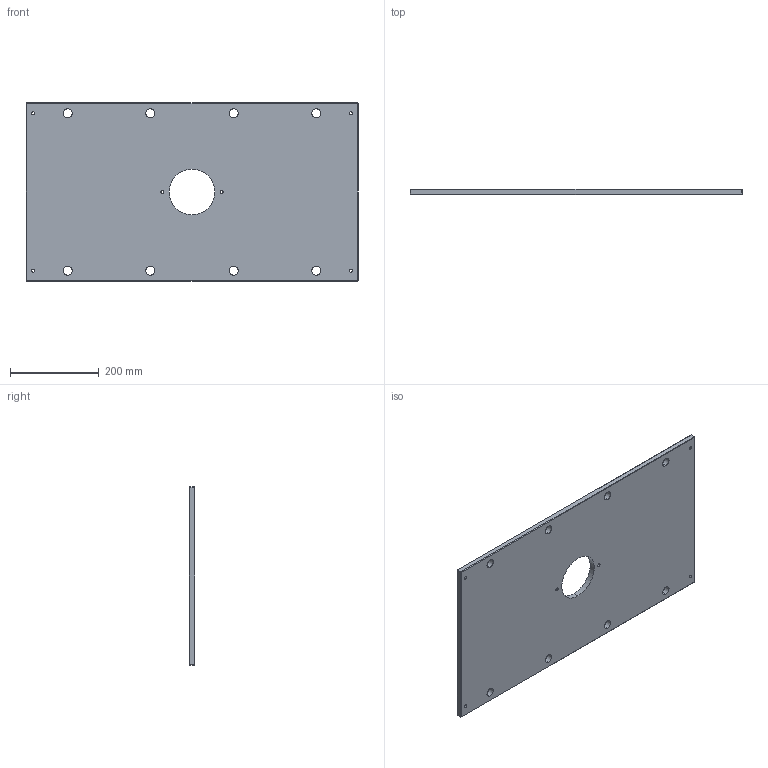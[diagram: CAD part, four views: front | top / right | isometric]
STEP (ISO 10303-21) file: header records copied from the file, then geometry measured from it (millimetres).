
FILE_DESCRIPTION (( 'STEP AP214' ), '1' );
FILE_NAME ('ME-0619-CH-1629.STEP', '2020-02-12T16:20:55', ( '' ), ( '' ), 'SwSTEP 2.0', 'SolidWorks 2018', '' );
FILE_SCHEMA (( 'AUTOMOTIVE_DESIGN' ));
Length unit declared in the file: inch
Products named in the file (1): ME-0619-CH-1629
Bounding box: 746.12 x 12.7 x 400.05 mm (x, y, z)
Volume: 3645413.5 mm3; surface area: 612456.4 mm2
Topology: 1 solids, 1 shells, 68 faces, 162 edges, 96 vertices
Faces by surface type: cylinder 30, plane 26, cone 12
Entity records: 2050 total; most frequent: DIRECTION 372, CARTESIAN_POINT 327, ORIENTED_EDGE 324, EDGE_CURVE 162, AXIS2_PLACEMENT_3D 141, EDGE_LOOP 98, VERTEX_POINT 96, VECTOR 90
